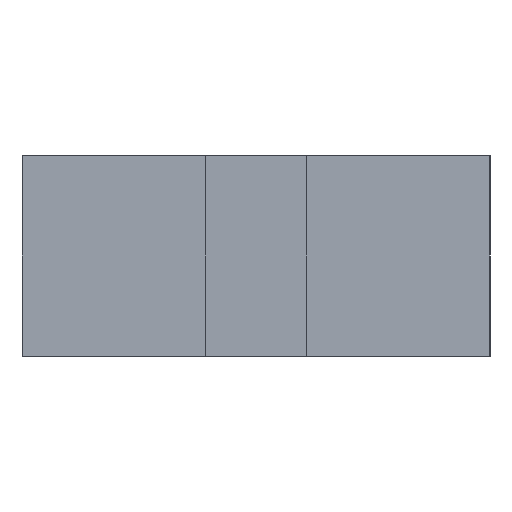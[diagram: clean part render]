
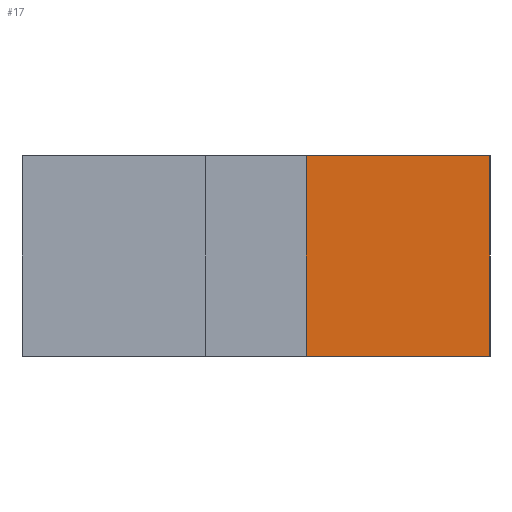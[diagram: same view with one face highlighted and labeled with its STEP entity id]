
A CAD part, left-side view. The second image highlights one B-rep face of the part: STEP entity #17.
In plain terms, the highlighted planar face has unit normal (-1, 0, 0).
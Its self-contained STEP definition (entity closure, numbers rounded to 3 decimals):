
#17 = ADVANCED_FACE('',(#18),#32,.F.);
#18 = FACE_BOUND('',#19,.F.);
#19 = EDGE_LOOP('',(#20,#55,#83,#111));
#20 = ORIENTED_EDGE('',*,*,#21,.F.);
#21 = EDGE_CURVE('',#22,#24,#26,.T.);
#22 = VERTEX_POINT('',#23);
#23 = CARTESIAN_POINT('',(-27.,-7.,6.));
#24 = VERTEX_POINT('',#25);
#25 = CARTESIAN_POINT('',(-27.,-1.5,6.));
#26 = SURFACE_CURVE('',#27,(#31,#43),.PCURVE_S1.);
#27 = LINE('',#28,#29);
#28 = CARTESIAN_POINT('',(-27.,-7.,6.));
#29 = VECTOR('',#30,1.);
#30 = DIRECTION('',(0.,1.,0.));
#31 = PCURVE('',#32,#37);
#32 = PLANE('',#33);
#33 = AXIS2_PLACEMENT_3D('',#34,#35,#36);
#34 = CARTESIAN_POINT('',(-27.,-7.,0.));
#35 = DIRECTION('',(1.,0.,0.));
#36 = DIRECTION('',(0.,0.,1.));
#37 = DEFINITIONAL_REPRESENTATION('',(#38),#42);
#38 = LINE('',#39,#40);
#39 = CARTESIAN_POINT('',(6.,0.));
#40 = VECTOR('',#41,1.);
#41 = DIRECTION('',(0.,-1.));
#42 = ( GEOMETRIC_REPRESENTATION_CONTEXT(2) 
PARAMETRIC_REPRESENTATION_CONTEXT() REPRESENTATION_CONTEXT('2D SPACE',''
  ) );
#43 = PCURVE('',#44,#49);
#44 = PLANE('',#45);
#45 = AXIS2_PLACEMENT_3D('',#46,#47,#48);
#46 = CARTESIAN_POINT('',(-27.,-7.,6.));
#47 = DIRECTION('',(0.,0.,1.));
#48 = DIRECTION('',(1.,0.,0.));
#49 = DEFINITIONAL_REPRESENTATION('',(#50),#54);
#50 = LINE('',#51,#52);
#51 = CARTESIAN_POINT('',(0.,0.));
#52 = VECTOR('',#53,1.);
#53 = DIRECTION('',(0.,1.));
#54 = ( GEOMETRIC_REPRESENTATION_CONTEXT(2) 
PARAMETRIC_REPRESENTATION_CONTEXT() REPRESENTATION_CONTEXT('2D SPACE',''
  ) );
#55 = ORIENTED_EDGE('',*,*,#56,.F.);
#56 = EDGE_CURVE('',#57,#22,#59,.T.);
#57 = VERTEX_POINT('',#58);
#58 = CARTESIAN_POINT('',(-27.,-7.,0.));
#59 = SURFACE_CURVE('',#60,(#64,#71),.PCURVE_S1.);
#60 = LINE('',#61,#62);
#61 = CARTESIAN_POINT('',(-27.,-7.,0.));
#62 = VECTOR('',#63,1.);
#63 = DIRECTION('',(0.,0.,1.));
#64 = PCURVE('',#32,#65);
#65 = DEFINITIONAL_REPRESENTATION('',(#66),#70);
#66 = LINE('',#67,#68);
#67 = CARTESIAN_POINT('',(0.,0.));
#68 = VECTOR('',#69,1.);
#69 = DIRECTION('',(1.,0.));
#70 = ( GEOMETRIC_REPRESENTATION_CONTEXT(2) 
PARAMETRIC_REPRESENTATION_CONTEXT() REPRESENTATION_CONTEXT('2D SPACE',''
  ) );
#71 = PCURVE('',#72,#77);
#72 = PLANE('',#73);
#73 = AXIS2_PLACEMENT_3D('',#74,#75,#76);
#74 = CARTESIAN_POINT('',(-27.,-7.,0.));
#75 = DIRECTION('',(0.,1.,0.));
#76 = DIRECTION('',(0.,0.,1.));
#77 = DEFINITIONAL_REPRESENTATION('',(#78),#82);
#78 = LINE('',#79,#80);
#79 = CARTESIAN_POINT('',(0.,0.));
#80 = VECTOR('',#81,1.);
#81 = DIRECTION('',(1.,0.));
#82 = ( GEOMETRIC_REPRESENTATION_CONTEXT(2) 
PARAMETRIC_REPRESENTATION_CONTEXT() REPRESENTATION_CONTEXT('2D SPACE',''
  ) );
#83 = ORIENTED_EDGE('',*,*,#84,.T.);
#84 = EDGE_CURVE('',#57,#85,#87,.T.);
#85 = VERTEX_POINT('',#86);
#86 = CARTESIAN_POINT('',(-27.,-1.5,0.));
#87 = SURFACE_CURVE('',#88,(#92,#99),.PCURVE_S1.);
#88 = LINE('',#89,#90);
#89 = CARTESIAN_POINT('',(-27.,-7.,0.));
#90 = VECTOR('',#91,1.);
#91 = DIRECTION('',(0.,1.,0.));
#92 = PCURVE('',#32,#93);
#93 = DEFINITIONAL_REPRESENTATION('',(#94),#98);
#94 = LINE('',#95,#96);
#95 = CARTESIAN_POINT('',(0.,0.));
#96 = VECTOR('',#97,1.);
#97 = DIRECTION('',(0.,-1.));
#98 = ( GEOMETRIC_REPRESENTATION_CONTEXT(2) 
PARAMETRIC_REPRESENTATION_CONTEXT() REPRESENTATION_CONTEXT('2D SPACE',''
  ) );
#99 = PCURVE('',#100,#105);
#100 = PLANE('',#101);
#101 = AXIS2_PLACEMENT_3D('',#102,#103,#104);
#102 = CARTESIAN_POINT('',(-27.,-7.,0.));
#103 = DIRECTION('',(0.,0.,1.));
#104 = DIRECTION('',(1.,0.,0.));
#105 = DEFINITIONAL_REPRESENTATION('',(#106),#110);
#106 = LINE('',#107,#108);
#107 = CARTESIAN_POINT('',(0.,0.));
#108 = VECTOR('',#109,1.);
#109 = DIRECTION('',(0.,1.));
#110 = ( GEOMETRIC_REPRESENTATION_CONTEXT(2) 
PARAMETRIC_REPRESENTATION_CONTEXT() REPRESENTATION_CONTEXT('2D SPACE',''
  ) );
#111 = ORIENTED_EDGE('',*,*,#112,.T.);
#112 = EDGE_CURVE('',#85,#24,#113,.T.);
#113 = SURFACE_CURVE('',#114,(#118,#124),.PCURVE_S1.);
#114 = LINE('',#115,#116);
#115 = CARTESIAN_POINT('',(-27.,-1.5,-0.5));
#116 = VECTOR('',#117,1.);
#117 = DIRECTION('',(0.,0.,1.));
#118 = PCURVE('',#32,#119);
#119 = DEFINITIONAL_REPRESENTATION('',(#120),#123);
#120 = B_SPLINE_CURVE_WITH_KNOTS('',1,(#121,#122),.UNSPECIFIED.,.F.,.F.,
  (2,2),(0.5,6.5),.PIECEWISE_BEZIER_KNOTS.);
#121 = CARTESIAN_POINT('',(0.,-5.5));
#122 = CARTESIAN_POINT('',(6.,-5.5));
#123 = ( GEOMETRIC_REPRESENTATION_CONTEXT(2) 
PARAMETRIC_REPRESENTATION_CONTEXT() REPRESENTATION_CONTEXT('2D SPACE',''
  ) );
#124 = PCURVE('',#125,#130);
#125 = PLANE('',#126);
#126 = AXIS2_PLACEMENT_3D('',#127,#128,#129);
#127 = CARTESIAN_POINT('',(-28.,-1.5,-1.));
#128 = DIRECTION('',(0.,1.,0.));
#129 = DIRECTION('',(0.,0.,1.));
#130 = DEFINITIONAL_REPRESENTATION('',(#131),#134);
#131 = B_SPLINE_CURVE_WITH_KNOTS('',1,(#132,#133),.UNSPECIFIED.,.F.,.F.,
  (2,2),(0.5,6.5),.PIECEWISE_BEZIER_KNOTS.);
#132 = CARTESIAN_POINT('',(1.,1.));
#133 = CARTESIAN_POINT('',(7.,1.));
#134 = ( GEOMETRIC_REPRESENTATION_CONTEXT(2) 
PARAMETRIC_REPRESENTATION_CONTEXT() REPRESENTATION_CONTEXT('2D SPACE',''
  ) );
